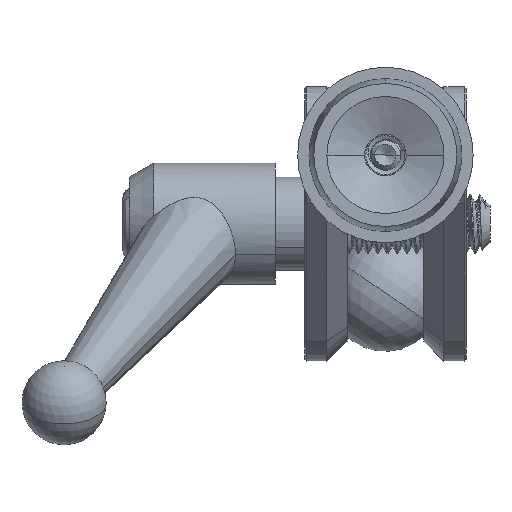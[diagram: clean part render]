
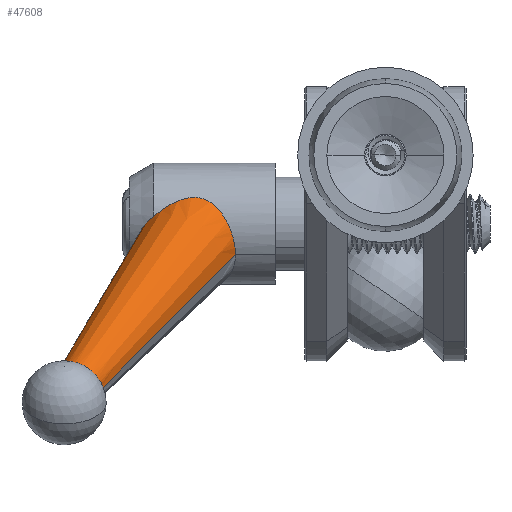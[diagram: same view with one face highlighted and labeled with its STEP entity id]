
A CAD part, left-side view. The second image highlights one B-rep face of the part: STEP entity #47608.
In plain terms, the highlighted conical face has half-angle 4.81 degrees and reference radius 8.42 mm.
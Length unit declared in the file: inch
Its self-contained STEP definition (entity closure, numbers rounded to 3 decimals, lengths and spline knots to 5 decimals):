
#3189 = CARTESIAN_POINT ( 'NONE',  ( 0.1679, 2.12034, -1.45666 ) ) ;
#3777 = CARTESIAN_POINT ( 'NONE',  ( 1.59567, 1.58091, -0.50534 ) ) ;
#5168 = ORIENTED_EDGE ( 'NONE', *, *, #68680, .F. ) ;
#5183 = CARTESIAN_POINT ( 'NONE',  ( 1.55904, 1.11264, -0.30805 ) ) ;
#5472 = CARTESIAN_POINT ( 'NONE',  ( 1.56364, 1.33414, -0.29623 ) ) ;
#9533 = CARTESIAN_POINT ( 'NONE',  ( 0.11876, 1.97752, -1.48504 ) ) ;
#10100 = CARTESIAN_POINT ( 'NONE',  ( 1.54706, 1.50354, -0.40608 ) ) ;
#10394 = CARTESIAN_POINT ( 'NONE',  ( 1.61931, 1.59736, -0.55385 ) ) ;
#10508 = EDGE_CURVE ( 'NONE', #21973, #78156, #56555, .T. ) ;
#11516 = CARTESIAN_POINT ( 'NONE',  ( 1.54511, 0.97616, -0.52972 ) ) ;
#11816 = CARTESIAN_POINT ( 'NONE',  ( 1.56894, 1.15556, -0.28375 ) ) ;
#12092 = CARTESIAN_POINT ( 'NONE',  ( 1.55569, 1.37844, -0.3177 ) ) ;
#14845 = AXIS2_PLACEMENT_3D ( 'NONE', #67053, #20721, #15252 ) ;
#15252 = DIRECTION ( 'NONE',  ( 0.32, 0.929, 0.185 ) ) ;
#15288 = LINE ( 'NONE', #66212, #50234 ) ;
#15295 = EDGE_LOOP ( 'NONE', ( #5168, #72119, #32198, #61857, #55092 ) ) ;
#16170 = DIRECTION ( 'NONE',  ( -0.32, -0.929, -0.185 ) ) ;
#17028 = CARTESIAN_POINT ( 'NONE',  ( 1.63509, 1.60233, -0.58366 ) ) ;
#17873 = CARTESIAN_POINT ( 'NONE',  ( 1.55819, 0.96517, -0.57721 ) ) ;
#18167 = CARTESIAN_POINT ( 'NONE',  ( 1.53727, 0.9913, -0.48273 ) ) ;
#18448 = CARTESIAN_POINT ( 'NONE',  ( 1.57309, 1.18781, -0.27478 ) ) ;
#18726 = CARTESIAN_POINT ( 'NONE',  ( 1.54555, 1.43443, -0.35192 ) ) ;
#18857 = EDGE_CURVE ( 'NONE', #78156, #40393, #19225, .T. ) ;
#19225 = B_SPLINE_CURVE_WITH_KNOTS ( 'NONE', 3,
 ( #55414, #10100, #29974, #75574, #36585, #82043, #43160, #3777, #49714, #10394, #56272, #17028, #62814, #23648 ),
 .UNSPECIFIED., .F., .F.,
 ( 4, 2, 2, 2, 2, 2, 4 ),
 ( 0., 0.00172, 0.00257, 0.00343, 0.00515, 0.00601, 0.00686 ),
 .UNSPECIFIED. ) ;
#19902 = CARTESIAN_POINT ( 'NONE',  ( 1.5384, 1.48612, -0.39408 ) ) ;
#20721 = DIRECTION ( 'NONE',  ( 0.805, -0.369, 0.465 ) ) ;
#21973 = VERTEX_POINT ( 'NONE', #30753 ) ;
#23648 = CARTESIAN_POINT ( 'NONE',  ( 1.64616, 1.60303, -0.60319 ) ) ;
#24493 = CARTESIAN_POINT ( 'NONE',  ( 1.57087, 0.96147, -0.60778 ) ) ;
#24564 = VECTOR ( 'NONE', #39278, 39.37008 ) ;
#24765 = CARTESIAN_POINT ( 'NONE',  ( 1.53519, 1.01134, -0.43667 ) ) ;
#25047 = CARTESIAN_POINT ( 'NONE',  ( 1.57458, 1.21259, -0.27169 ) ) ;
#25330 = CARTESIAN_POINT ( 'NONE',  ( 1.5384, 1.48612, -0.39408 ) ) ;
#26052 = CARTESIAN_POINT ( 'NONE',  ( 1.92545, 1.50529, -0.44194 ) ) ;
#29974 = CARTESIAN_POINT ( 'NONE',  ( 1.55494, 1.51932, -0.42013 ) ) ;
#30753 = CARTESIAN_POINT ( 'NONE',  ( 1.5877, 0.96147, -0.63694 ) ) ;
#31373 = CARTESIAN_POINT ( 'NONE',  ( 1.53824, 1.03591, -0.39325 ) ) ;
#31567 = EDGE_CURVE ( 'NONE', #65369, #40393, #59322, .T. ) ;
#31653 = CARTESIAN_POINT ( 'NONE',  ( 1.57449, 1.23779, -0.27186 ) ) ;
#32198 = ORIENTED_EDGE ( 'NONE', *, *, #10508, .T. ) ;
#36355 = CONICAL_SURFACE ( 'NONE', #14845, 0.3315, 0.084 ) ;
#36585 = CARTESIAN_POINT ( 'NONE',  ( 1.57077, 1.54723, -0.45183 ) ) ;
#37985 = CARTESIAN_POINT ( 'NONE',  ( 1.54543, 1.06525, -0.35326 ) ) ;
#38265 = CARTESIAN_POINT ( 'NONE',  ( 1.57303, 1.26269, -0.27491 ) ) ;
#39278 = DIRECTION ( 'NONE',  ( 0.829, -0.29, 0.479 ) ) ;
#40393 = VERTEX_POINT ( 'NONE', #49962 ) ;
#43160 = CARTESIAN_POINT ( 'NONE',  ( 1.58301, 1.56544, -0.47801 ) ) ;
#44553 = CARTESIAN_POINT ( 'NONE',  ( 1.55539, 1.09985, -0.3183 ) ) ;
#44830 = CARTESIAN_POINT ( 'NONE',  ( 1.56851, 1.30297, -0.28468 ) ) ;
#46586 = FACE_OUTER_BOUND ( 'NONE', #15295, .T. ) ;
#47608 = ADVANCED_FACE ( 'NONE', ( #46586 ), #36355, .T. ) ;
#49714 = CARTESIAN_POINT ( 'NONE',  ( 1.60455, 1.589, -0.52434 ) ) ;
#49962 = CARTESIAN_POINT ( 'NONE',  ( 1.64616, 1.60303, -0.60319 ) ) ;
#50234 = VECTOR ( 'NONE', #72730, 39.37008 ) ;
#50839 = CARTESIAN_POINT ( 'NONE',  ( 1.5877, 0.96147, -0.63694 ) ) ;
#51122 = CARTESIAN_POINT ( 'NONE',  ( 1.56587, 1.14068, -0.29066 ) ) ;
#51399 = CARTESIAN_POINT ( 'NONE',  ( 1.56099, 1.34917, -0.30292 ) ) ;
#55092 = ORIENTED_EDGE ( 'NONE', *, *, #31567, .F. ) ;
#55414 = CARTESIAN_POINT ( 'NONE',  ( 1.5384, 1.48612, -0.39408 ) ) ;
#55420 = DIRECTION ( 'NONE',  ( -0.805, 0.369, -0.465 ) ) ;
#56272 = CARTESIAN_POINT ( 'NONE',  ( 1.62449, 1.59951, -0.56389 ) ) ;
#56555 = B_SPLINE_CURVE_WITH_KNOTS ( 'NONE', 3,
 ( #50839, #24493, #17873, #11516, #57392, #18167, #63927, #24765, #70481, #31373, #76961, #37985, #83422, #44553, #5183, #51122, #11816, #57670, #18448, #64200, #25047, #70747, #31653, #77241, #38265, #83702, #44830, #5472, #51399, #12092, #57944, #18726, #64481, #25330 ),
 .UNSPECIFIED., .F., .F.,
 ( 4, 2, 2, 2, 2, 2, 2, 2, 2, 2, 2, 2, 2, 2, 2, 2, 4 ),
 ( 0.02022, 0.02275, 0.02401, 0.02527, 0.02653, 0.0278, 0.02906, 0.03032, 0.03159, 0.03222, 0.03285, 0.03348, 0.03411, 0.03537, 0.03664, 0.0379, 0.04042 ),
 .UNSPECIFIED. ) ;
#57392 = CARTESIAN_POINT ( 'NONE',  ( 1.54183, 0.98068, -0.51393 ) ) ;
#57670 = CARTESIAN_POINT ( 'NONE',  ( 1.57223, 1.17958, -0.27659 ) ) ;
#57944 = CARTESIAN_POINT ( 'NONE',  ( 1.55304, 1.39268, -0.32579 ) ) ;
#58775 = CIRCLE ( 'NONE', #62781, 0.15368 ) ;
#59322 = LINE ( 'NONE', #26052, #24564 ) ;
#61857 = ORIENTED_EDGE ( 'NONE', *, *, #18857, .T. ) ;
#62781 = AXIS2_PLACEMENT_3D ( 'NONE', #9533, #55420, #16170 ) ;
#62814 = CARTESIAN_POINT ( 'NONE',  ( 1.64055, 1.60303, -0.59347 ) ) ;
#63927 = CARTESIAN_POINT ( 'NONE',  ( 1.53598, 0.99741, -0.46726 ) ) ;
#64200 = CARTESIAN_POINT ( 'NONE',  ( 1.57426, 1.20429, -0.27233 ) ) ;
#64481 = CARTESIAN_POINT ( 'NONE',  ( 1.54114, 1.46112, -0.3719 ) ) ;
#65369 = VERTEX_POINT ( 'NONE', #3189 ) ;
#66212 = CARTESIAN_POINT ( 'NONE',  ( 1.71343, 0.88915, -0.56435 ) ) ;
#66962 = CARTESIAN_POINT ( 'NONE',  ( 0.06961, 1.83471, -1.51341 ) ) ;
#67053 = CARTESIAN_POINT ( 'NONE',  ( 1.81944, 1.19722, -0.50315 ) ) ;
#68680 = EDGE_CURVE ( 'NONE', #83310, #65369, #58775, .T. ) ;
#70481 = CARTESIAN_POINT ( 'NONE',  ( 1.53571, 1.01905, -0.42181 ) ) ;
#70747 = CARTESIAN_POINT ( 'NONE',  ( 1.57469, 1.22931, -0.27145 ) ) ;
#72119 = ORIENTED_EDGE ( 'NONE', *, *, #78348, .T. ) ;
#72730 = DIRECTION ( 'NONE',  ( 0.775, -0.446, 0.448 ) ) ;
#75574 = CARTESIAN_POINT ( 'NONE',  ( 1.56681, 1.54056, -0.4436 ) ) ;
#76961 = CARTESIAN_POINT ( 'NONE',  ( 1.54025, 1.04508, -0.37951 ) ) ;
#77241 = CARTESIAN_POINT ( 'NONE',  ( 1.57366, 1.25447, -0.2736 ) ) ;
#78156 = VERTEX_POINT ( 'NONE', #19902 ) ;
#78348 = EDGE_CURVE ( 'NONE', #83310, #21973, #15288, .T. ) ;
#82043 = CARTESIAN_POINT ( 'NONE',  ( 1.57888, 1.55969, -0.46905 ) ) ;
#83310 = VERTEX_POINT ( 'NONE', #66962 ) ;
#83422 = CARTESIAN_POINT ( 'NONE',  ( 1.54861, 1.07621, -0.34083 ) ) ;
#83702 = CARTESIAN_POINT ( 'NONE',  ( 1.57069, 1.28706, -0.27991 ) ) ;
